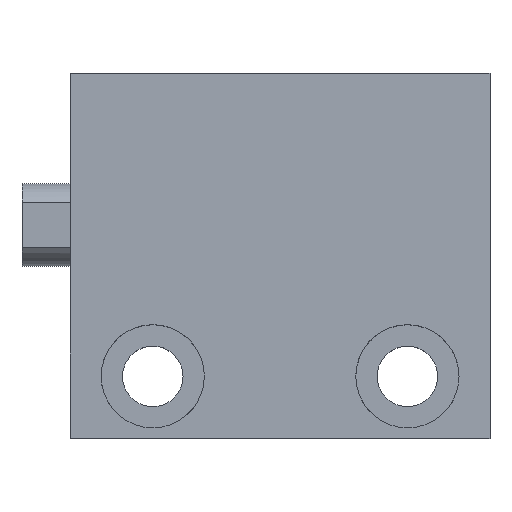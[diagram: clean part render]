
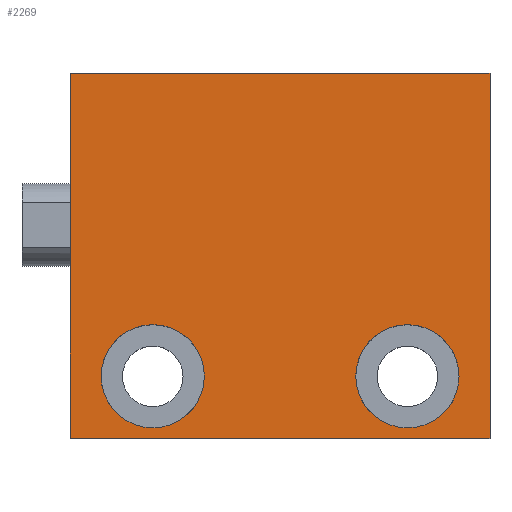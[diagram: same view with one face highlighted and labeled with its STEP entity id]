
A CAD part, top view. The second image highlights one B-rep face of the part: STEP entity #2269.
In plain terms, the highlighted planar face has unit normal (0, 0, 1).
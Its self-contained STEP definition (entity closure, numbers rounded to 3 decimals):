
#41 = CARTESIAN_POINT ( 'NONE',  ( 9.75, -11., 8.5 ) ) ;
#64 = DIRECTION ( 'NONE',  ( 1., 0., 0. ) ) ;
#186 = CARTESIAN_POINT ( 'NONE',  ( 30.5, -15.5, 8.5 ) ) ;
#207 = EDGE_LOOP ( 'NONE', ( #1732, #727 ) ) ;
#235 = ORIENTED_EDGE ( 'NONE', *, *, #2916, .F. ) ;
#268 = LINE ( 'NONE', #1234, #2616 ) ;
#355 = LINE ( 'NONE', #2501, #3001 ) ;
#363 = VERTEX_POINT ( 'NONE', #2005 ) ;
#404 = DIRECTION ( 'NONE',  ( 0., 0., 1. ) ) ;
#409 = DIRECTION ( 'NONE',  ( 1., 0., 0. ) ) ;
#412 = CARTESIAN_POINT ( 'NONE',  ( 30.5, -15.5, 8.5 ) ) ;
#424 = LINE ( 'NONE', #186, #1086 ) ;
#425 = DIRECTION ( 'NONE',  ( 0., 0., 1. ) ) ;
#430 = CARTESIAN_POINT ( 'NONE',  ( 30.5, -15.5, 8.5 ) ) ;
#433 = VERTEX_POINT ( 'NONE', #41 ) ;
#501 = VECTOR ( 'NONE', #1541, 1000. ) ;
#576 = CARTESIAN_POINT ( 'NONE',  ( 0., -15.5, 8.5 ) ) ;
#595 = VERTEX_POINT ( 'NONE', #1584 ) ;
#627 = ORIENTED_EDGE ( 'NONE', *, *, #2169, .T. ) ;
#714 = VERTEX_POINT ( 'NONE', #976 ) ;
#727 = ORIENTED_EDGE ( 'NONE', *, *, #1936, .F. ) ;
#744 = CARTESIAN_POINT ( 'NONE',  ( 24.5, -11., 8.5 ) ) ;
#797 = AXIS2_PLACEMENT_3D ( 'NONE', #744, #1718, #1476 ) ;
#912 = ORIENTED_EDGE ( 'NONE', *, *, #1563, .F. ) ;
#976 = CARTESIAN_POINT ( 'NONE',  ( 20.75, -11., 8.5 ) ) ;
#1086 = VECTOR ( 'NONE', #2805, 1000. ) ;
#1125 = EDGE_LOOP ( 'NONE', ( #912, #3092, #627, #2009 ) ) ;
#1138 = FACE_OUTER_BOUND ( 'NONE', #1125, .T. ) ;
#1201 = AXIS2_PLACEMENT_3D ( 'NONE', #2684, #2947, #64 ) ;
#1234 = CARTESIAN_POINT ( 'NONE',  ( 30.5, 11., 8.5 ) ) ;
#1422 = EDGE_CURVE ( 'NONE', #2577, #714, #1613, .T. ) ;
#1438 = EDGE_CURVE ( 'NONE', #1766, #2284, #268, .T. ) ;
#1476 = DIRECTION ( 'NONE',  ( 1., 0., 0. ) ) ;
#1480 = EDGE_CURVE ( 'NONE', #433, #595, #1811, .T. ) ;
#1507 = CARTESIAN_POINT ( 'NONE',  ( 28.25, -11., 8.5 ) ) ;
#1513 = CARTESIAN_POINT ( 'NONE',  ( 30.5, 11., 8.5 ) ) ;
#1541 = DIRECTION ( 'NONE',  ( 0., 1., 0. ) ) ;
#1563 = EDGE_CURVE ( 'NONE', #363, #2284, #2449, .T. ) ;
#1584 = CARTESIAN_POINT ( 'NONE',  ( 2.25, -11., 8.5 ) ) ;
#1605 = DIRECTION ( 'NONE',  ( 0., 1., 0. ) ) ;
#1613 = CIRCLE ( 'NONE', #797, 3.75 ) ;
#1619 = CARTESIAN_POINT ( 'NONE',  ( 6., -11., 8.5 ) ) ;
#1631 = CARTESIAN_POINT ( 'NONE',  ( 24.5, -11., 8.5 ) ) ;
#1638 = PLANE ( 'NONE',  #2051 ) ;
#1696 = AXIS2_PLACEMENT_3D ( 'NONE', #1631, #404, #2582 ) ;
#1718 = DIRECTION ( 'NONE',  ( 0., 0., 1. ) ) ;
#1732 = ORIENTED_EDGE ( 'NONE', *, *, #1480, .F. ) ;
#1766 = VERTEX_POINT ( 'NONE', #1513 ) ;
#1811 = CIRCLE ( 'NONE', #1201, 3.75 ) ;
#1855 = DIRECTION ( 'NONE',  ( 0., 0., 1. ) ) ;
#1897 = DIRECTION ( 'NONE',  ( 0., 1., 0. ) ) ;
#1936 = EDGE_CURVE ( 'NONE', #595, #433, #2277, .T. ) ;
#2005 = CARTESIAN_POINT ( 'NONE',  ( 0., -15.5, 8.5 ) ) ;
#2009 = ORIENTED_EDGE ( 'NONE', *, *, #1438, .T. ) ;
#2051 = AXIS2_PLACEMENT_3D ( 'NONE', #412, #1855, #1897 ) ;
#2169 = EDGE_CURVE ( 'NONE', #2298, #1766, #355, .T. ) ;
#2269 = ADVANCED_FACE ( 'NONE', ( #1138, #2574, #2339 ), #1638, .T. ) ;
#2277 = CIRCLE ( 'NONE', #2777, 3.75 ) ;
#2284 = VERTEX_POINT ( 'NONE', #2355 ) ;
#2298 = VERTEX_POINT ( 'NONE', #430 ) ;
#2339 = FACE_BOUND ( 'NONE', #207, .T. ) ;
#2355 = CARTESIAN_POINT ( 'NONE',  ( 0., 11., 8.5 ) ) ;
#2449 = LINE ( 'NONE', #576, #501 ) ;
#2501 = CARTESIAN_POINT ( 'NONE',  ( 30.5, -15.5, 8.5 ) ) ;
#2533 = EDGE_LOOP ( 'NONE', ( #3029, #235 ) ) ;
#2574 = FACE_BOUND ( 'NONE', #2533, .T. ) ;
#2577 = VERTEX_POINT ( 'NONE', #1507 ) ;
#2582 = DIRECTION ( 'NONE',  ( 1., 0., 0. ) ) ;
#2616 = VECTOR ( 'NONE', #2919, 1000. ) ;
#2684 = CARTESIAN_POINT ( 'NONE',  ( 6., -11., 8.5 ) ) ;
#2726 = EDGE_CURVE ( 'NONE', #2298, #363, #424, .T. ) ;
#2777 = AXIS2_PLACEMENT_3D ( 'NONE', #1619, #425, #409 ) ;
#2805 = DIRECTION ( 'NONE',  ( -1., 0., 0. ) ) ;
#2916 = EDGE_CURVE ( 'NONE', #714, #2577, #2988, .T. ) ;
#2919 = DIRECTION ( 'NONE',  ( -1., 0., 0. ) ) ;
#2947 = DIRECTION ( 'NONE',  ( 0., 0., 1. ) ) ;
#2988 = CIRCLE ( 'NONE', #1696, 3.75 ) ;
#3001 = VECTOR ( 'NONE', #1605, 1000. ) ;
#3029 = ORIENTED_EDGE ( 'NONE', *, *, #1422, .F. ) ;
#3092 = ORIENTED_EDGE ( 'NONE', *, *, #2726, .F. ) ;
